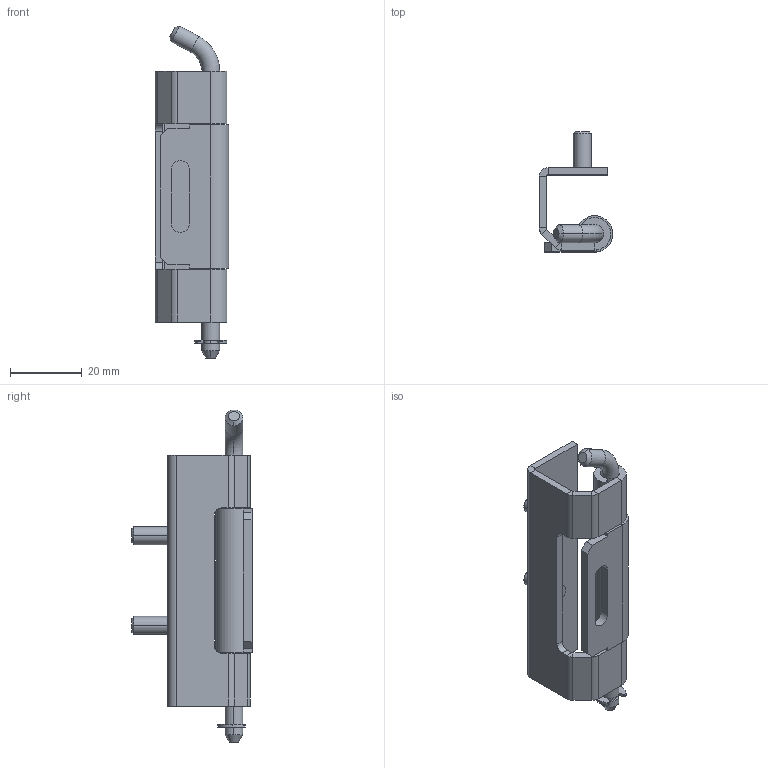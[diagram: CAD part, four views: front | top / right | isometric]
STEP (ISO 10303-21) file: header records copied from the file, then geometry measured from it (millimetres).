
FILE_DESCRIPTION (( 'STEP AP214' ), '1' );
FILE_NAME ('3.ST41.001.STEP', '2010-01-29T19:43:27', ( 'Techniczny' ), ( 'RST Roztocze' ), 'SwSTEP 2.0', 'SolidWorks 2010', '' );
FILE_SCHEMA (( 'AUTOMOTIVE_DESIGN' ));
Length unit declared in the file: millimetre
Products named in the file (6): 3.ST41.001.02; 3.ST41.001.01_Default; 3.ST41.003.05; 3.ST41.001.03; 3.ST41.003.04_Default; 3.ST41.001
Assembly tree (6 placements, depth 2):
  3.ST41.001
    3.ST41.003.05
    3.ST41.003.04_Default  x2
    3.ST41.001.02
    3.ST41.001.01_Default
    3.ST41.001.03
Bounding box: 20.5 x 33.5 x 92.55 mm (x, y, z)
Volume: 11797.8 mm3; surface area: 12147.2 mm2
Topology: 6 solids, 6 shells, 147 faces, 337 edges, 204 vertices
Faces by surface type: plane 81, cylinder 38, bspline 18, cone 8, torus 2
Entity records: 4405 total; most frequent: CARTESIAN_POINT 1053, ORIENTED_EDGE 654, DIRECTION 637, EDGE_CURVE 327, AXIS2_PLACEMENT_3D 214, VECTOR 209, LINE 209, VERTEX_POINT 198
